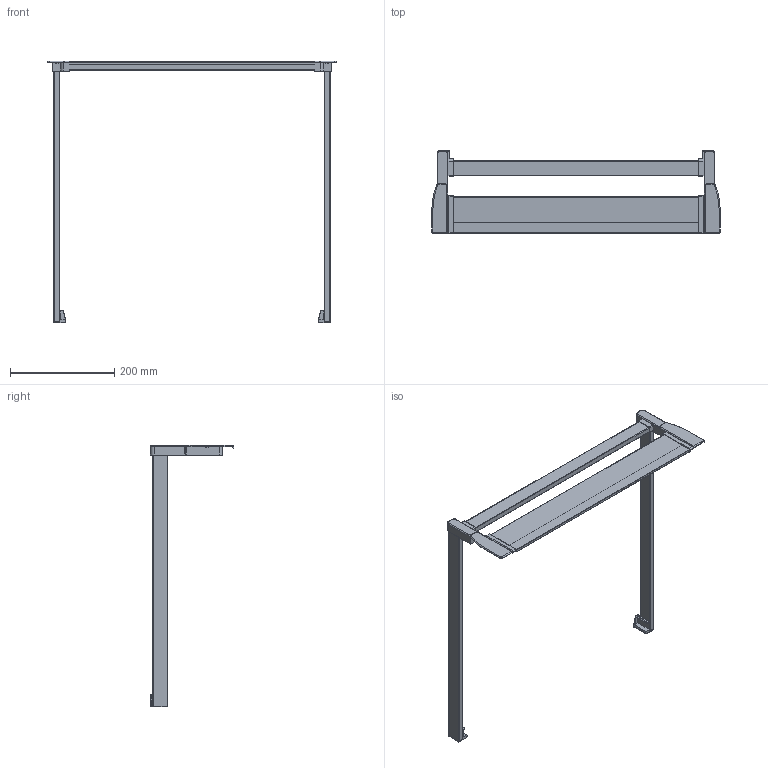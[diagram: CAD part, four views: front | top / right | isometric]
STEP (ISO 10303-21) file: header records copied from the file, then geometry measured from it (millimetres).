
FILE_DESCRIPTION (( 'STEP AP214' ), '1' );
FILE_NAME ('1_P620_NL 500_KAB 600_19er KS_.step', '2009-09-16T06:29:55', ( 'Waldinger Reinhard' ), ( 'Grass GmbH' ), 'SwSTEP 2.0', 'SolidWorks 2009', '' );
FILE_SCHEMA (( 'AUTOMOTIVE_DESIGN' ));
Length unit declared in the file: millimetre
Products named in the file (1): 1_P620_NL 500_KAB 600_19er KS_
Bounding box: 553.6 x 160.5 x 502.8 mm (x, y, z)
Volume: 981236.8 mm3; surface area: 233167.9 mm2
Topology: 1 solids, 1 shells, 220 faces, 578 edges, 364 vertices
Faces by surface type: plane 97, cylinder 91, torus 28, sphere 2, bspline 2
Entity records: 7004 total; most frequent: CARTESIAN_POINT 1345, DIRECTION 1198, ORIENTED_EDGE 1152, EDGE_CURVE 576, AXIS2_PLACEMENT_3D 433, VERTEX_POINT 364, LINE 332, VECTOR 332
